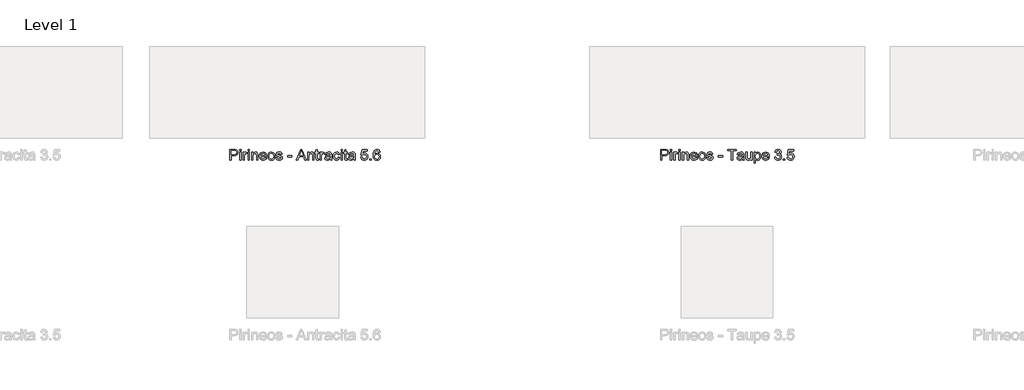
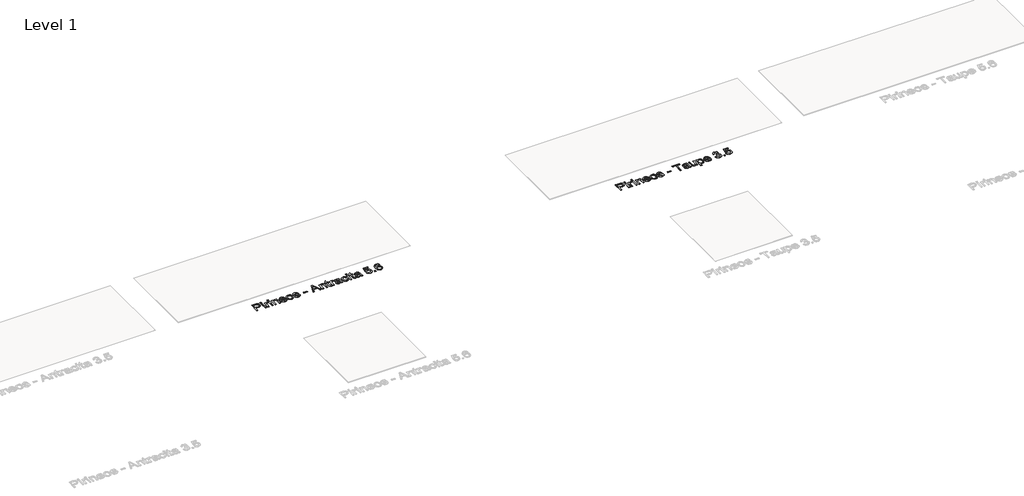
# One storey, part 47 of 80: 2 proxies.
"""IFC4 building model written with IfcOpenShell, lengths in millimetres."""

from ifc_helpers import new_model, si_unit, origin, origin_with_axes, place, context, project, spatial, polyline, outline, extrude, element, save

model = new_model("IFC4")

# Units and contexts
model_context = context("Model", 3, world=origin())
ifc_project = project(units=[si_unit("LENGTHUNIT", "METRE", prefix="MILLI")], contexts=[model_context])

# Site, building, storey
site = spatial("IfcSite", under=ifc_project)
building = spatial("IfcBuilding", under=site)
storey = spatial("IfcBuildingStorey", under=building, Name="Level 1", Elevation=0.0)

# Proxies
placement = place(None, origin())
element("IfcBuildingElementProxy", 1, Name="24\" Arial", ObjectType="24\" Arial", at=placement, inside=storey, context=model_context, shape_type="SweptSolid", body=[
    extrude(outline(polyline([(-15830.3068771, 1348.728562), (-15830.3068771, 1466.8824082), (-15786.5184156, 1466.8824082), (-15768.8645694, 1465.7574082), (-15754.5136079, 1460.2333697), (-15745.2107233, 1448.8102928), (-15741.6914925, 1432.6997159), (-15744.0676944, 1418.7742351), (-15751.1963002, 1407.1708697), (-15764.5268291, 1399.339139), (-15785.5088002, 1396.728562), (-15815.5376464, 1396.728562), (-15815.5376464, 1348.728562), (-15830.3068771, 1348.728562)]), holes=[polyline([(-15815.5376464, 1411.4977928), (-15784.6434156, 1411.4977928), (-15771.5472617, 1412.853562), (-15762.8934156, 1416.9208697), (-15758.0688964, 1423.447312), (-15756.4607233, 1432.1804851), (-15760.2539925, 1444.4112544), (-15770.2203387, 1451.103562), (-15784.9895694, 1452.1131774), (-15815.5376464, 1452.1131774), (-15815.5376464, 1411.4977928)])]), origin_with_axes(), (0.0, 0.0, 1.0), 2.0),
    extrude(outline(polyline([(-15723.2299541, 1348.728562), (-15723.2299541, 1435.4977928), (-15708.4607233, 1435.4977928), (-15708.4607233, 1348.728562), (-15723.2299541, 1348.728562)])), origin_with_axes(), (0.0, 0.0, 1.0), 2.0),
    extrude(outline(polyline([(-15723.2299541, 1452.1131774), (-15723.2299541, 1466.8824082), (-15708.4607233, 1466.8824082), (-15708.4607233, 1452.1131774), (-15723.2299541, 1452.1131774)])), origin_with_axes(), (0.0, 0.0, 1.0), 2.0),
    extrude(outline(polyline([(-15686.3068771, 1348.728562), (-15686.3068771, 1435.4977928), (-15673.3838002, 1435.4977928), (-15673.3838002, 1422.6612544), (-15664.2107233, 1434.4881774), (-15654.9799541, 1437.3439467), (-15640.153031, 1432.7862544), (-15645.0857233, 1419.5458697), (-15655.4703387, 1422.5747159), (-15663.8213002, 1419.6612544), (-15669.1434156, 1411.5843313), (-15671.5376464, 1394.3343313), (-15671.5376464, 1348.728562), (-15686.3068771, 1348.728562)])), origin_with_axes(), (0.0, 0.0, 1.0), 2.0),
    extrude(outline(polyline([(-15630.9222617, 1348.728562), (-15630.9222617, 1435.4977928), (-15616.153031, 1435.4977928), (-15616.153031, 1348.728562), (-15630.9222617, 1348.728562)])), origin_with_axes(), (0.0, 0.0, 1.0), 2.0),
    extrude(outline(polyline([(-15630.9222617, 1452.1131774), (-15630.9222617, 1466.8824082), (-15616.153031, 1466.8824082), (-15616.153031, 1452.1131774), (-15630.9222617, 1452.1131774)])), origin_with_axes(), (0.0, 0.0, 1.0), 2.0),
    extrude(outline(polyline([(-15593.9991848, 1348.728562), (-15593.9991848, 1435.4977928), (-15579.2299541, 1435.4977928), (-15579.2299541, 1423.3824082), (-15567.9366848, 1433.853562), (-15552.5184156, 1437.3439467), (-15538.5713002, 1434.5314467), (-15529.0520694, 1427.1468313), (-15524.6241848, 1416.2862544), (-15523.8453387, 1402.0074082), (-15523.8453387, 1348.728562), (-15538.6145694, 1348.728562), (-15538.6145694, 1400.0170236), (-15540.3164925, 1413.0843313), (-15546.3309156, 1419.9929851), (-15556.4703387, 1422.5747159), (-15572.4943771, 1416.776639), (-15577.5460598, 1408.3751967), (-15579.2299541, 1394.7670236), (-15579.2299541, 1348.728562), (-15593.9991848, 1348.728562)])), origin_with_axes(), (0.0, 0.0, 1.0), 2.0),
    extrude(outline(polyline([(-15442.7876464, 1374.5747159), (-15428.3068771, 1372.728562), (-15433.5244252, 1361.8175044), (-15441.8501464, 1353.6612544), (-15453.0965406, 1348.5771197), (-15467.0761079, 1346.8824082), (-15484.4054348, 1349.806687), (-15497.7395694, 1358.5795236), (-15506.2419733, 1372.6312063), (-15509.0761079, 1391.3920236), (-15506.2131271, 1410.7838505), (-15497.6241848, 1425.2862544), (-15484.4703387, 1434.3295236), (-15467.9126464, 1437.3439467), (-15451.8705791, 1434.3367351), (-15439.0520694, 1425.3151005), (-15430.6470214, 1410.8415428), (-15427.8453387, 1391.478562), (-15427.9318771, 1387.4977928), (-15494.3068771, 1387.4977928), (-15491.7503867, 1376.4425044), (-15485.8116848, 1368.3151005), (-15477.2407714, 1363.3175044), (-15466.7876464, 1361.651639), (-15452.3068771, 1364.7381774), (-15442.7876464, 1374.5747159)]), holes=[polyline([(-15494.3068771, 1402.2670236), (-15442.6145694, 1402.2670236), (-15448.528031, 1415.651639), (-15457.1386079, 1420.8439467), (-15467.9703387, 1422.5747159), (-15486.1578387, 1417.0506774), (-15491.8801944, 1410.5927447), (-15494.3068771, 1402.2670236)])]), origin_with_axes(), (0.0, 0.0, 1.0), 2.0),
    extrude(outline(polyline([(-15416.7684156, 1392.1131774), (-15413.5737041, 1413.0338505), (-15403.9895694, 1427.7381774), (-15392.1482233, 1434.9425044), (-15377.9703387, 1437.3439467), (-15362.4547137, 1434.4196678), (-15350.0616848, 1425.6468313), (-15341.9378867, 1411.7177447), (-15339.2299541, 1393.3247159), (-15344.0184156, 1367.0458697), (-15357.965531, 1352.1756774), (-15377.9703387, 1346.8824082), (-15393.6734637, 1349.7958697), (-15406.0520694, 1358.5362544), (-15414.0893291, 1372.7574082), (-15416.7684156, 1392.1131774)]), holes=[polyline([(-15401.9991848, 1392.1420236), (-15400.2900502, 1378.775437), (-15395.1626464, 1369.2526005), (-15387.4463002, 1363.5518794), (-15377.9703387, 1361.651639), (-15368.5376464, 1363.5626967), (-15360.8357233, 1369.2958697), (-15355.7083194, 1378.9449082), (-15353.9991848, 1392.603562), (-15355.7191367, 1405.5807255), (-15360.8789925, 1414.9737544), (-15368.5917329, 1420.6744755), (-15377.9703387, 1422.5747159), (-15387.4463002, 1420.681687), (-15395.1626464, 1415.0026005), (-15400.2900502, 1405.5013986), (-15401.9991848, 1392.1420236)])]), origin_with_axes(), (0.0, 0.0, 1.0), 2.0),
    extrude(outline(polyline([(-15328.153031, 1374.5747159), (-15313.3838002, 1376.4208697), (-15306.5472617, 1365.4593313), (-15290.8838002, 1361.651639), (-15275.8261079, 1365.1420236), (-15270.9222617, 1373.3343313), (-15275.8549541, 1379.9689467), (-15291.0568771, 1384.1804851), (-15313.2972617, 1391.4064467), (-15323.0039925, 1399.8439467), (-15326.3068771, 1411.7574082), (-15323.653031, 1422.7622159), (-15316.4126464, 1431.1708697), (-15307.0232233, 1435.541062), (-15294.3164925, 1437.3439467), (-15276.3453387, 1434.4449082), (-15264.9222617, 1426.5987544), (-15259.8453387, 1413.3439467), (-15274.6145694, 1411.4977928), (-15280.1674541, 1419.6468313), (-15293.1626464, 1422.5747159), (-15307.2972617, 1419.776639), (-15311.5376464, 1413.2574082), (-15309.778031, 1408.9593313), (-15304.2684156, 1405.6997159), (-15291.5472617, 1402.5554851), (-15269.8693771, 1395.603562), (-15259.8020694, 1387.728562), (-15256.153031, 1374.8920236), (-15260.4366848, 1360.7574082), (-15272.7972617, 1350.5026005), (-15291.0857233, 1346.8824082), (-15305.9775502, 1348.6276005), (-15316.8453387, 1353.8631774), (-15324.1001464, 1362.5314467), (-15328.153031, 1374.5747159)])), origin_with_axes(), (0.0, 0.0, 1.0), 2.0),
    extrude(outline(polyline([(-15200.7684156, 1383.8054851), (-15200.7684156, 1398.5747159), (-15154.6145694, 1398.5747159), (-15154.6145694, 1383.8054851), (-15200.7684156, 1383.8054851)])), origin_with_axes(), (0.0, 0.0, 1.0), 2.0),
    extrude(outline(polyline([(-15103.7588002, 1348.728562), (-15056.5953387, 1466.8824082), (-15044.0184156, 1466.8824082), (-14996.8549541, 1348.728562), (-15012.4607233, 1348.728562), (-15025.9895694, 1385.651639), (-15074.653031, 1385.651639), (-15088.153031, 1348.728562), (-15103.7588002, 1348.728562)]), holes=[polyline([(-15069.2299541, 1400.4208697), (-15031.3838002, 1400.4208697), (-15042.028031, 1429.4689467), (-15050.3068771, 1452.1131774), (-15057.6626464, 1432.0074082), (-15069.2299541, 1400.4208697)])]), origin_with_axes(), (0.0, 0.0, 1.0), 2.0),
    extrude(outline(polyline([(-14982.9222617, 1348.728562), (-14982.9222617, 1435.4977928), (-14968.153031, 1435.4977928), (-14968.153031, 1423.3824082), (-14956.8597617, 1433.853562), (-14941.4414925, 1437.3439467), (-14927.4943771, 1434.5314467), (-14917.9751464, 1427.1468313), (-14913.5472617, 1416.2862544), (-14912.7684156, 1402.0074082), (-14912.7684156, 1348.728562), (-14927.5376464, 1348.728562), (-14927.5376464, 1400.0170236), (-14929.2395694, 1413.0843313), (-14935.2539925, 1419.9929851), (-14945.3934156, 1422.5747159), (-14961.4174541, 1416.776639), (-14966.4691367, 1408.3751967), (-14968.153031, 1394.7670236), (-14968.153031, 1348.728562), (-14982.9222617, 1348.728562)])), origin_with_axes(), (0.0, 0.0, 1.0), 2.0),
    extrude(outline(polyline([(-14861.0761079, 1361.0458697), (-14859.2299541, 1348.2958697), (-14870.278031, 1346.8824082), (-14882.653031, 1349.3343313), (-14888.8261079, 1355.7670236), (-14890.6145694, 1372.526639), (-14890.6145694, 1420.728562), (-14901.6914925, 1420.728562), (-14901.6914925, 1435.4977928), (-14890.6145694, 1435.4977928), (-14890.6145694, 1456.5843313), (-14875.8453387, 1465.2670236), (-14875.8453387, 1435.4977928), (-14861.0761079, 1435.4977928), (-14861.0761079, 1420.728562), (-14875.8453387, 1420.728562), (-14875.8453387, 1372.9593313), (-14875.0664925, 1365.3439467), (-14872.5424541, 1362.6468313), (-14867.5088002, 1361.651639), (-14861.0761079, 1361.0458697)])), origin_with_axes(), (0.0, 0.0, 1.0), 2.0),
    extrude(outline(polyline([(-14846.3068771, 1348.728562), (-14846.3068771, 1435.4977928), (-14833.3838002, 1435.4977928), (-14833.3838002, 1422.6612544), (-14824.2107233, 1434.4881774), (-14814.9799541, 1437.3439467), (-14800.153031, 1432.7862544), (-14805.0857233, 1419.5458697), (-14815.4703387, 1422.5747159), (-14823.8213002, 1419.6612544), (-14829.1434156, 1411.5843313), (-14831.5376464, 1394.3343313), (-14831.5376464, 1348.728562), (-14846.3068771, 1348.728562)])), origin_with_axes(), (0.0, 0.0, 1.0), 2.0),
    extrude(outline(polyline([(-14735.5376464, 1359.8054851), (-14749.8597617, 1349.7958697), (-14765.6818771, 1346.8824082), (-14778.0244252, 1348.634812), (-14787.1289925, 1353.8920236), (-14792.7431752, 1361.8751967), (-14794.6145694, 1371.8054851), (-14791.7876464, 1383.4881774), (-14784.3597617, 1391.9689467), (-14774.0184156, 1396.8151005), (-14761.2395694, 1399.0362544), (-14735.6241848, 1404.1131774), (-14735.5376464, 1407.401639), (-14739.6049541, 1418.3054851), (-14755.9318771, 1422.5747159), (-14770.8741848, 1419.7333697), (-14777.9991848, 1409.651639), (-14792.7684156, 1411.4977928), (-14786.3789925, 1425.9208697), (-14773.5136079, 1434.3727928), (-14754.028031, 1437.3439467), (-14736.1289925, 1434.7189467), (-14726.0184156, 1428.1276005), (-14721.4895694, 1418.103562), (-14720.7684156, 1405.1804851), (-14720.7684156, 1386.8054851), (-14720.0184156, 1361.1468313), (-14717.0761079, 1348.728562), (-14731.8453387, 1348.728562), (-14735.5376464, 1359.8054851)]), holes=[polyline([(-14735.5376464, 1389.3439467), (-14759.3645694, 1384.8151005), (-14772.0713002, 1382.4208697), (-14777.8261079, 1378.526639), (-14779.8453387, 1372.8439467), (-14775.4463002, 1364.853562), (-14762.5376464, 1361.651639), (-14747.5953387, 1365.1852928), (-14737.9607233, 1373.7381774), (-14735.6241848, 1385.1612544), (-14735.5376464, 1389.3439467)])]), origin_with_axes(), (0.0, 0.0, 1.0), 2.0),
    extrude(outline(polyline([(-14645.0761079, 1380.1131774), (-14630.3068771, 1378.2670236), (-14634.4246656, 1365.1312063), (-14642.1626464, 1355.2045236), (-14652.7924541, 1348.962937), (-14665.5857233, 1346.8824082), (-14681.2960598, 1349.7850524), (-14693.5809156, 1358.4929851), (-14701.5100021, 1372.6239947), (-14704.153031, 1391.7958697), (-14699.6386079, 1416.3295236), (-14693.9414925, 1425.5278409), (-14685.8789925, 1432.0939467), (-14665.7876464, 1437.3439467), (-14653.3080791, 1435.541062), (-14643.3309156, 1430.1324082), (-14636.1734637, 1421.4064467), (-14632.153031, 1409.651639), (-14646.9222617, 1407.8054851), (-14653.7732233, 1418.8679851), (-14665.6722617, 1422.5747159), (-14675.2167329, 1420.7501967), (-14682.7924541, 1415.276639), (-14687.7359637, 1405.8583697), (-14689.3838002, 1392.1997159), (-14687.7720214, 1378.3571678), (-14682.9366848, 1368.9064467), (-14675.4979829, 1363.4653409), (-14666.0761079, 1361.651639), (-14652.1578387, 1366.1804851), (-14645.0761079, 1380.1131774)])), origin_with_axes(), (0.0, 0.0, 1.0), 2.0),
    extrude(outline(polyline([(-14617.3838002, 1348.728562), (-14617.3838002, 1435.4977928), (-14602.6145694, 1435.4977928), (-14602.6145694, 1348.728562), (-14617.3838002, 1348.728562)])), origin_with_axes(), (0.0, 0.0, 1.0), 2.0),
    extrude(outline(polyline([(-14617.3838002, 1452.1131774), (-14617.3838002, 1466.8824082), (-14602.6145694, 1466.8824082), (-14602.6145694, 1452.1131774), (-14617.3838002, 1452.1131774)])), origin_with_axes(), (0.0, 0.0, 1.0), 2.0),
    extrude(outline(polyline([(-14549.0761079, 1361.0458697), (-14547.2299541, 1348.2958697), (-14558.278031, 1346.8824082), (-14570.653031, 1349.3343313), (-14576.8261079, 1355.7670236), (-14578.6145694, 1372.526639), (-14578.6145694, 1420.728562), (-14589.6914925, 1420.728562), (-14589.6914925, 1435.4977928), (-14578.6145694, 1435.4977928), (-14578.6145694, 1456.5843313), (-14563.8453387, 1465.2670236), (-14563.8453387, 1435.4977928), (-14549.0761079, 1435.4977928), (-14549.0761079, 1420.728562), (-14563.8453387, 1420.728562), (-14563.8453387, 1372.9593313), (-14563.0664925, 1365.3439467), (-14560.5424541, 1362.6468313), (-14555.5088002, 1361.651639), (-14549.0761079, 1361.0458697)])), origin_with_axes(), (0.0, 0.0, 1.0), 2.0),
    extrude(outline(polyline([(-14478.9222617, 1359.8054851), (-14493.2443771, 1349.7958697), (-14509.0664925, 1346.8824082), (-14521.4090406, 1348.634812), (-14530.5136079, 1353.8920236), (-14536.1277906, 1361.8751967), (-14537.9991848, 1371.8054851), (-14535.1722617, 1383.4881774), (-14527.7443771, 1391.9689467), (-14517.403031, 1396.8151005), (-14504.6241848, 1399.0362544), (-14479.0088002, 1404.1131774), (-14478.9222617, 1407.401639), (-14482.9895694, 1418.3054851), (-14499.3164925, 1422.5747159), (-14514.2588002, 1419.7333697), (-14521.3838002, 1409.651639), (-14536.153031, 1411.4977928), (-14529.7636079, 1425.9208697), (-14516.8982233, 1434.3727928), (-14497.4126464, 1437.3439467), (-14479.5136079, 1434.7189467), (-14469.403031, 1428.1276005), (-14464.8741848, 1418.103562), (-14464.153031, 1405.1804851), (-14464.153031, 1386.8054851), (-14463.403031, 1361.1468313), (-14460.4607233, 1348.728562), (-14475.2299541, 1348.728562), (-14478.9222617, 1359.8054851)]), holes=[polyline([(-14478.9222617, 1389.3439467), (-14502.7491848, 1384.8151005), (-14515.4559156, 1382.4208697), (-14521.2107233, 1378.526639), (-14523.2299541, 1372.8439467), (-14518.8309156, 1364.853562), (-14505.9222617, 1361.651639), (-14490.9799541, 1365.1852928), (-14481.3453387, 1373.7381774), (-14479.0088002, 1385.1612544), (-14478.9222617, 1389.3439467)])]), origin_with_axes(), (0.0, 0.0, 1.0), 2.0),
    extrude(outline(polyline([(-14401.3838002, 1380.1131774), (-14386.6145694, 1381.9593313), (-14379.1722617, 1366.7429851), (-14363.7395694, 1361.651639), (-14353.153031, 1363.4220717), (-14345.2203387, 1368.7333697), (-14340.2660117, 1376.9725524), (-14338.6145694, 1387.526639), (-14340.1614444, 1397.464139), (-14344.8020694, 1405.0651005), (-14352.5725021, 1409.8896197), (-14363.5088002, 1411.4977928), (-14376.4751464, 1408.9304851), (-14384.7684156, 1402.2670236), (-14399.5376464, 1404.1131774), (-14386.6145694, 1465.0362544), (-14329.3838002, 1465.0362544), (-14329.3838002, 1450.2670236), (-14374.6722617, 1450.2670236), (-14380.9895694, 1417.728562), (-14370.4390887, 1424.1324082), (-14359.3838002, 1426.2670236), (-14345.5845214, 1423.620389), (-14334.1289925, 1415.6804851), (-14326.4162521, 1403.5795236), (-14323.8453387, 1388.4497159), (-14326.1602425, 1373.6804851), (-14333.1049541, 1361.0458697), (-14346.403031, 1350.4232736), (-14363.7972617, 1346.8824082), (-14378.3032714, 1349.1576486), (-14389.8597617, 1355.9833697), (-14397.7816367, 1366.5663024), (-14401.3838002, 1380.1131774)])), origin_with_axes(), (0.0, 0.0, 1.0), 2.0),
    extrude(outline(polyline([(-14303.5376464, 1348.728562), (-14303.5376464, 1363.4977928), (-14288.7684156, 1363.4977928), (-14288.7684156, 1348.728562), (-14303.5376464, 1348.728562)])), origin_with_axes(), (0.0, 0.0, 1.0), 2.0),
    extrude(outline(polyline([(-14189.0761079, 1435.4977928), (-14203.8453387, 1433.651639), (-14209.4414925, 1445.9689467), (-14216.1410117, 1450.5771197), (-14224.2395694, 1452.1131774), (-14237.5664925, 1448.5362544), (-14247.6482233, 1435.1083697), (-14251.8453387, 1408.7862544), (-14238.8213002, 1420.5699082), (-14222.6818771, 1424.4208697), (-14209.0376464, 1421.7886582), (-14197.5857233, 1413.8920236), (-14189.8188964, 1401.8271197), (-14187.2299541, 1386.6901005), (-14192.1049541, 1366.3102928), (-14205.5184156, 1351.8872159), (-14224.8741848, 1346.8824082), (-14241.6301944, 1350.1997159), (-14254.9751464, 1360.151639), (-14263.7047137, 1377.7189467), (-14266.6145694, 1403.8824082), (-14263.3838002, 1433.2982736), (-14253.6914925, 1453.4112544), (-14240.4583194, 1463.5146197), (-14223.3164925, 1466.8824082), (-14210.3573579, 1464.7982736), (-14199.9799541, 1458.5458697), (-14192.7107233, 1448.6155813), (-14189.0761079, 1435.4977928)]), holes=[polyline([(-14251.8453387, 1386.9208697), (-14248.4270694, 1374.1276005), (-14239.340531, 1364.839139), (-14226.028031, 1361.651639), (-14216.2816367, 1363.3030813), (-14208.6193771, 1368.2574082), (-14203.6542329, 1376.0458697), (-14201.9991848, 1386.1997159), (-14203.6325983, 1395.9461101), (-14208.5328387, 1403.3776005), (-14216.324906, 1408.0831294), (-14226.6338002, 1409.651639), (-14236.3657714, 1408.0831294), (-14244.5039925, 1403.3776005), (-14250.0100021, 1396.1263986), (-14251.8453387, 1386.9208697)])]), origin_with_axes(), (0.0, 0.0, 1.0), 2.0),
])
element("IfcBuildingElementProxy", 2, Name="24\" Arial", ObjectType="24\" Arial", at=placement, inside=storey, context=model_context, shape_type="SweptSolid", body=[
    extrude(outline(polyline([(-11130.153031, 1348.728562), (-11130.153031, 1466.8824082), (-11086.3645694, 1466.8824082), (-11068.7107233, 1465.7574082), (-11054.3597617, 1460.2333697), (-11045.0568771, 1448.8102928), (-11041.5376464, 1432.6997159), (-11043.9138483, 1418.7742351), (-11051.0424541, 1407.1708697), (-11064.3729829, 1399.339139), (-11085.3549541, 1396.728562), (-11115.3838002, 1396.728562), (-11115.3838002, 1348.728562), (-11130.153031, 1348.728562)]), holes=[polyline([(-11115.3838002, 1411.4977928), (-11084.4895694, 1411.4977928), (-11071.3934156, 1412.853562), (-11062.7395694, 1416.9208697), (-11057.9150502, 1423.447312), (-11056.3068771, 1432.1804851), (-11060.1001464, 1444.4112544), (-11070.0664925, 1451.103562), (-11084.8357233, 1452.1131774), (-11115.3838002, 1452.1131774), (-11115.3838002, 1411.4977928)])]), origin_with_axes(), (0.0, 0.0, 1.0), 2.0),
    extrude(outline(polyline([(-11023.0761079, 1348.728562), (-11023.0761079, 1435.4977928), (-11008.3068771, 1435.4977928), (-11008.3068771, 1348.728562), (-11023.0761079, 1348.728562)])), origin_with_axes(), (0.0, 0.0, 1.0), 2.0),
    extrude(outline(polyline([(-11023.0761079, 1452.1131774), (-11023.0761079, 1466.8824082), (-11008.3068771, 1466.8824082), (-11008.3068771, 1452.1131774), (-11023.0761079, 1452.1131774)])), origin_with_axes(), (0.0, 0.0, 1.0), 2.0),
    extrude(outline(polyline([(-10986.153031, 1348.728562), (-10986.153031, 1435.4977928), (-10973.2299541, 1435.4977928), (-10973.2299541, 1422.6612544), (-10964.0568771, 1434.4881774), (-10954.8261079, 1437.3439467), (-10939.9991848, 1432.7862544), (-10944.9318771, 1419.5458697), (-10955.3164925, 1422.5747159), (-10963.6674541, 1419.6612544), (-10968.9895694, 1411.5843313), (-10971.3838002, 1394.3343313), (-10971.3838002, 1348.728562), (-10986.153031, 1348.728562)])), origin_with_axes(), (0.0, 0.0, 1.0), 2.0),
    extrude(outline(polyline([(-10930.7684156, 1348.728562), (-10930.7684156, 1435.4977928), (-10915.9991848, 1435.4977928), (-10915.9991848, 1348.728562), (-10930.7684156, 1348.728562)])), origin_with_axes(), (0.0, 0.0, 1.0), 2.0),
    extrude(outline(polyline([(-10930.7684156, 1452.1131774), (-10930.7684156, 1466.8824082), (-10915.9991848, 1466.8824082), (-10915.9991848, 1452.1131774), (-10930.7684156, 1452.1131774)])), origin_with_axes(), (0.0, 0.0, 1.0), 2.0),
    extrude(outline(polyline([(-10893.8453387, 1348.728562), (-10893.8453387, 1435.4977928), (-10879.0761079, 1435.4977928), (-10879.0761079, 1423.3824082), (-10867.7828387, 1433.853562), (-10852.3645694, 1437.3439467), (-10838.4174541, 1434.5314467), (-10828.8982233, 1427.1468313), (-10824.4703387, 1416.2862544), (-10823.6914925, 1402.0074082), (-10823.6914925, 1348.728562), (-10838.4607233, 1348.728562), (-10838.4607233, 1400.0170236), (-10840.1626464, 1413.0843313), (-10846.1770694, 1419.9929851), (-10856.3164925, 1422.5747159), (-10872.340531, 1416.776639), (-10877.3922137, 1408.3751967), (-10879.0761079, 1394.7670236), (-10879.0761079, 1348.728562), (-10893.8453387, 1348.728562)])), origin_with_axes(), (0.0, 0.0, 1.0), 2.0),
    extrude(outline(polyline([(-10742.6338002, 1374.5747159), (-10728.153031, 1372.728562), (-10733.3705791, 1361.8175044), (-10741.6963002, 1353.6612544), (-10752.9426944, 1348.5771197), (-10766.9222617, 1346.8824082), (-10784.2515887, 1349.806687), (-10797.5857233, 1358.5795236), (-10806.0881271, 1372.6312063), (-10808.9222617, 1391.3920236), (-10806.059281, 1410.7838505), (-10797.4703387, 1425.2862544), (-10784.3164925, 1434.3295236), (-10767.7588002, 1437.3439467), (-10751.7167329, 1434.3367351), (-10738.8982233, 1425.3151005), (-10730.4931752, 1410.8415428), (-10727.6914925, 1391.478562), (-10727.778031, 1387.4977928), (-10794.153031, 1387.4977928), (-10791.5965406, 1376.4425044), (-10785.6578387, 1368.3151005), (-10777.0869252, 1363.3175044), (-10766.6338002, 1361.651639), (-10752.153031, 1364.7381774), (-10742.6338002, 1374.5747159)]), holes=[polyline([(-10794.153031, 1402.2670236), (-10742.4607233, 1402.2670236), (-10748.3741848, 1415.651639), (-10756.9847617, 1420.8439467), (-10767.8164925, 1422.5747159), (-10786.0039925, 1417.0506774), (-10791.7263483, 1410.5927447), (-10794.153031, 1402.2670236)])]), origin_with_axes(), (0.0, 0.0, 1.0), 2.0),
    extrude(outline(polyline([(-10716.6145694, 1392.1131774), (-10713.4198579, 1413.0338505), (-10703.8357233, 1427.7381774), (-10691.9943771, 1434.9425044), (-10677.8164925, 1437.3439467), (-10662.3008675, 1434.4196678), (-10649.9078387, 1425.6468313), (-10641.7840406, 1411.7177447), (-10639.0761079, 1393.3247159), (-10643.8645694, 1367.0458697), (-10657.8116848, 1352.1756774), (-10677.8164925, 1346.8824082), (-10693.5196175, 1349.7958697), (-10705.8982233, 1358.5362544), (-10713.9354829, 1372.7574082), (-10716.6145694, 1392.1131774)]), holes=[polyline([(-10701.8453387, 1392.1420236), (-10700.1362041, 1378.775437), (-10695.0088002, 1369.2526005), (-10687.2924541, 1363.5518794), (-10677.8164925, 1361.651639), (-10668.3838002, 1363.5626967), (-10660.6818771, 1369.2958697), (-10655.5544733, 1378.9449082), (-10653.8453387, 1392.603562), (-10655.5652906, 1405.5807255), (-10660.7251464, 1414.9737544), (-10668.4378867, 1420.6744755), (-10677.8164925, 1422.5747159), (-10687.2924541, 1420.681687), (-10695.0088002, 1415.0026005), (-10700.1362041, 1405.5013986), (-10701.8453387, 1392.1420236)])]), origin_with_axes(), (0.0, 0.0, 1.0), 2.0),
    extrude(outline(polyline([(-10627.9991848, 1374.5747159), (-10613.2299541, 1376.4208697), (-10606.3934156, 1365.4593313), (-10590.7299541, 1361.651639), (-10575.6722617, 1365.1420236), (-10570.7684156, 1373.3343313), (-10575.7011079, 1379.9689467), (-10590.903031, 1384.1804851), (-10613.1434156, 1391.4064467), (-10622.8501464, 1399.8439467), (-10626.153031, 1411.7574082), (-10623.4991848, 1422.7622159), (-10616.2588002, 1431.1708697), (-10606.8693771, 1435.541062), (-10594.1626464, 1437.3439467), (-10576.1914925, 1434.4449082), (-10564.7684156, 1426.5987544), (-10559.6914925, 1413.3439467), (-10574.4607233, 1411.4977928), (-10580.0136079, 1419.6468313), (-10593.0088002, 1422.5747159), (-10607.1434156, 1419.776639), (-10611.3838002, 1413.2574082), (-10609.6241848, 1408.9593313), (-10604.1145694, 1405.6997159), (-10591.3934156, 1402.5554851), (-10569.715531, 1395.603562), (-10559.6482233, 1387.728562), (-10555.9991848, 1374.8920236), (-10560.2828387, 1360.7574082), (-10572.6434156, 1350.5026005), (-10590.9318771, 1346.8824082), (-10605.8237041, 1348.6276005), (-10616.6914925, 1353.8631774), (-10623.9463002, 1362.5314467), (-10627.9991848, 1374.5747159)])), origin_with_axes(), (0.0, 0.0, 1.0), 2.0),
    extrude(outline(polyline([(-10500.6145694, 1383.8054851), (-10500.6145694, 1398.5747159), (-10454.4607233, 1398.5747159), (-10454.4607233, 1383.8054851), (-10500.6145694, 1383.8054851)])), origin_with_axes(), (0.0, 0.0, 1.0), 2.0),
    extrude(outline(polyline([(-10360.3068771, 1348.728562), (-10360.3068771, 1452.1131774), (-10399.0761079, 1452.1131774), (-10399.0761079, 1466.8824082), (-10306.7684156, 1466.8824082), (-10306.7684156, 1452.1131774), (-10345.5376464, 1452.1131774), (-10345.5376464, 1348.728562), (-10360.3068771, 1348.728562)])), origin_with_axes(), (0.0, 0.0, 1.0), 2.0),
    extrude(outline(polyline([(-10236.6145694, 1359.8054851), (-10250.9366848, 1349.7958697), (-10266.7588002, 1346.8824082), (-10279.1013483, 1348.634812), (-10288.2059156, 1353.8920236), (-10293.8200983, 1361.8751967), (-10295.6914925, 1371.8054851), (-10292.8645694, 1383.4881774), (-10285.4366848, 1391.9689467), (-10275.0953387, 1396.8151005), (-10262.3164925, 1399.0362544), (-10236.7011079, 1404.1131774), (-10236.6145694, 1407.401639), (-10240.6818771, 1418.3054851), (-10257.0088002, 1422.5747159), (-10271.9511079, 1419.7333697), (-10279.0761079, 1409.651639), (-10293.8453387, 1411.4977928), (-10287.4559156, 1425.9208697), (-10274.590531, 1434.3727928), (-10255.1049541, 1437.3439467), (-10237.2059156, 1434.7189467), (-10227.0953387, 1428.1276005), (-10222.5664925, 1418.103562), (-10221.8453387, 1405.1804851), (-10221.8453387, 1386.8054851), (-10221.0953387, 1361.1468313), (-10218.153031, 1348.728562), (-10232.9222617, 1348.728562), (-10236.6145694, 1359.8054851)]), holes=[polyline([(-10236.6145694, 1389.3439467), (-10260.4414925, 1384.8151005), (-10273.1482233, 1382.4208697), (-10278.903031, 1378.526639), (-10280.9222617, 1372.8439467), (-10276.5232233, 1364.853562), (-10263.6145694, 1361.651639), (-10248.6722617, 1365.1852928), (-10239.0376464, 1373.7381774), (-10236.7011079, 1385.1612544), (-10236.6145694, 1389.3439467)])]), origin_with_axes(), (0.0, 0.0, 1.0), 2.0),
    extrude(outline(polyline([(-10146.153031, 1348.728562), (-10146.153031, 1363.6420236), (-10157.7203387, 1351.072312), (-10172.8068771, 1346.8824082), (-10186.6963002, 1349.8247159), (-10196.2732233, 1357.2093313), (-10200.6722617, 1368.0843313), (-10201.5376464, 1381.8151005), (-10201.5376464, 1435.4977928), (-10186.7684156, 1435.4977928), (-10186.7684156, 1388.7670236), (-10185.8741848, 1373.7093313), (-10180.0328387, 1364.8679851), (-10169.028031, 1361.651639), (-10156.6963002, 1364.9401005), (-10148.5472617, 1373.8968313), (-10146.153031, 1390.353562), (-10146.153031, 1435.4977928), (-10131.3838002, 1435.4977928), (-10131.3838002, 1348.728562), (-10146.153031, 1348.728562)])), origin_with_axes(), (0.0, 0.0, 1.0), 2.0),
    extrude(outline(polyline([(-10111.0761079, 1315.4977928), (-10111.0761079, 1435.4977928), (-10096.3068771, 1435.4977928), (-10096.3068771, 1421.0170236), (-10086.0953387, 1433.2622159), (-10072.3068771, 1437.3439467), (-10053.5857233, 1431.6324082), (-10041.3549541, 1415.5362544), (-10037.2299541, 1392.776639), (-10041.8886079, 1368.8487544), (-10047.6001464, 1359.4593313), (-10055.4174541, 1352.5506774), (-10074.0953387, 1346.8824082), (-10086.9463002, 1350.6756774), (-10096.3068771, 1360.2670236), (-10096.3068771, 1315.4977928), (-10111.0761079, 1315.4977928)]), holes=[polyline([(-10096.3068771, 1391.4208697), (-10094.7095214, 1378.1804851), (-10089.9174541, 1368.9208697), (-10082.8465406, 1363.4689467), (-10074.4126464, 1361.651639), (-10065.8417329, 1363.5338505), (-10058.590531, 1369.1804851), (-10053.6470214, 1378.7790428), (-10051.9991848, 1392.5170236), (-10053.6073579, 1405.6852928), (-10058.4318771, 1415.0747159), (-10065.4919733, 1420.6997159), (-10073.8068771, 1422.5747159), (-10082.1542329, 1420.5807255), (-10089.4847617, 1414.5987544), (-10094.6013483, 1404.8163024), (-10096.3068771, 1391.4208697)])]), origin_with_axes(), (0.0, 0.0, 1.0), 2.0),
    extrude(outline(polyline([(-9959.8645694, 1374.5747159), (-9945.3838002, 1372.728562), (-9950.6013483, 1361.8175044), (-9958.9270694, 1353.6612544), (-9970.1734637, 1348.5771197), (-9984.153031, 1346.8824082), (-10001.4823579, 1349.806687), (-10014.8164925, 1358.5795236), (-10023.3188964, 1372.6312063), (-10026.153031, 1391.3920236), (-10023.2900502, 1410.7838505), (-10014.7011079, 1425.2862544), (-10001.5472617, 1434.3295236), (-9984.9895694, 1437.3439467), (-9968.9475021, 1434.3367351), (-9956.1289925, 1425.3151005), (-9947.7239444, 1410.8415428), (-9944.9222617, 1391.478562), (-9945.0088002, 1387.4977928), (-10011.3838002, 1387.4977928), (-10008.8273098, 1376.4425044), (-10002.8886079, 1368.3151005), (-9994.3176944, 1363.3175044), (-9983.8645694, 1361.651639), (-9969.3838002, 1364.7381774), (-9959.8645694, 1374.5747159)]), holes=[polyline([(-10011.3838002, 1402.2670236), (-9959.6914925, 1402.2670236), (-9965.6049541, 1415.651639), (-9974.215531, 1420.8439467), (-9985.0472617, 1422.5747159), (-10003.2347617, 1417.0506774), (-10008.9571175, 1410.5927447), (-10011.3838002, 1402.2670236)])]), origin_with_axes(), (0.0, 0.0, 1.0), 2.0),
    extrude(outline(polyline([(-9887.6914925, 1380.1131774), (-9872.9222617, 1381.9593313), (-9864.7732233, 1366.4112544), (-9849.528031, 1361.651639), (-9839.403031, 1363.2886582), (-9831.5857233, 1368.1997159), (-9826.5881271, 1375.526639), (-9824.9222617, 1384.4112544), (-9826.5737041, 1392.8451486), (-9831.528031, 1399.6852928), (-9839.028031, 1404.2177447), (-9848.3164925, 1405.728562), (-9858.6722617, 1404.1131774), (-9857.028031, 1418.8824082), (-9854.6626464, 1418.7093313), (-9837.903031, 1422.9497159), (-9832.3213002, 1428.3295236), (-9830.4607233, 1435.9881774), (-9835.8549541, 1447.541062), (-9849.7588002, 1452.1131774), (-9863.8357233, 1447.4977928), (-9871.0761079, 1433.651639), (-9885.8453387, 1435.4977928), (-9881.496781, 1448.759812), (-9873.7588002, 1458.6612544), (-9863.1722617, 1464.8271197), (-9850.278031, 1466.8824082), (-9832.465531, 1462.8295236), (-9820.0039925, 1451.7526005), (-9815.6914925, 1436.853562), (-9819.7876464, 1423.2381774), (-9831.903031, 1413.4593313), (-9822.6578387, 1409.7237544), (-9815.8068771, 1403.3631774), (-9811.5664925, 1394.7237544), (-9810.153031, 1384.151639), (-9812.9799541, 1369.7574082), (-9821.4607233, 1357.728562), (-9834.2612041, 1349.5939467), (-9850.0472617, 1346.8824082), (-9864.3261079, 1349.197312), (-9875.9511079, 1356.1420236), (-9884.0352425, 1366.7646197), (-9887.6914925, 1380.1131774)])), origin_with_axes(), (0.0, 0.0, 1.0), 2.0),
    extrude(outline(polyline([(-9789.8453387, 1348.728562), (-9789.8453387, 1363.4977928), (-9775.0761079, 1363.4977928), (-9775.0761079, 1348.728562), (-9789.8453387, 1348.728562)])), origin_with_axes(), (0.0, 0.0, 1.0), 2.0),
    extrude(outline(polyline([(-9751.0761079, 1380.1131774), (-9736.3068771, 1381.9593313), (-9728.8645694, 1366.7429851), (-9713.4318771, 1361.651639), (-9702.8453387, 1363.4220717), (-9694.9126464, 1368.7333697), (-9689.9583194, 1376.9725524), (-9688.3068771, 1387.526639), (-9689.8537521, 1397.464139), (-9694.4943771, 1405.0651005), (-9702.2648098, 1409.8896197), (-9713.2011079, 1411.4977928), (-9726.1674541, 1408.9304851), (-9734.4607233, 1402.2670236), (-9749.2299541, 1404.1131774), (-9736.3068771, 1465.0362544), (-9679.0761079, 1465.0362544), (-9679.0761079, 1450.2670236), (-9724.3645694, 1450.2670236), (-9730.6818771, 1417.728562), (-9720.1313964, 1424.1324082), (-9709.0761079, 1426.2670236), (-9695.2768291, 1423.620389), (-9683.8213002, 1415.6804851), (-9676.1085598, 1403.5795236), (-9673.5376464, 1388.4497159), (-9675.8525502, 1373.6804851), (-9682.7972617, 1361.0458697), (-9696.0953387, 1350.4232736), (-9713.4895694, 1346.8824082), (-9727.9955791, 1349.1576486), (-9739.5520694, 1355.9833697), (-9747.4739444, 1366.5663024), (-9751.0761079, 1380.1131774)])), origin_with_axes(), (0.0, 0.0, 1.0), 2.0),
])

save(model, "model.ifc")
